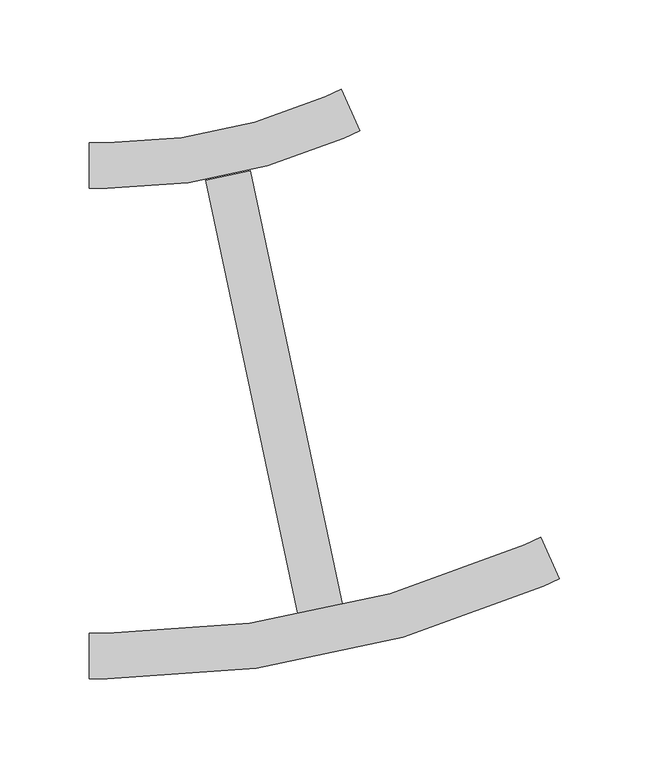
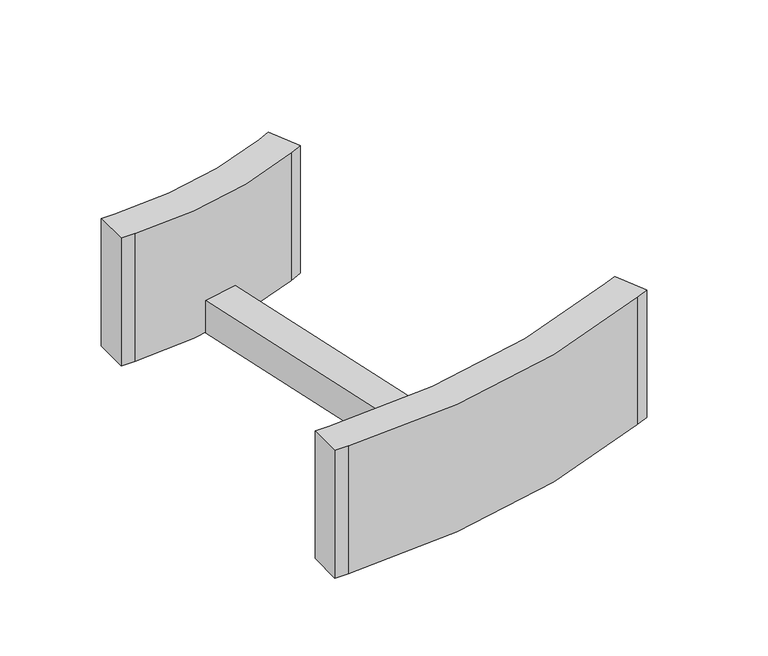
"""IFC4 building model written with IfcOpenShell, lengths in millimetres: cable carrier fitting geometry, ADSK_Поворот горизонтальный_Лестничный лоток : Радиус 300 мм."""

from ifc_helpers import new_model, si_unit, point, frame, frame_2d, origin, place, context, project, spatial, polyline, circle_curve, trimmed, segment, composite_curve, outline, extrude, source, transform, mapped, element, save


def cable_carrier_fitting_b7d36ccd(model_context):
    return source(origin(), model_context, "Body", "SweptSolid", [
        extrude(outline(polyline([(-40.4184631, 129.0702923), (-15.573514, 134.3512492), (36.2380793, -109.4031329), (11.3931303, -114.6840899), (-40.4184631, 129.0702923)])), frame((0.0, 0.0, -50.0), z_axis=(0.0, 0.0, 1.0), x_axis=(1.0, 0.0, 0.0)), (0.0, 0.0, 1.0), 25.4),
        extrude(outline(composite_curve([segment(polyline([(-105.6504528, -150.0), (-105.6504528, -124.6), (-95.6504528, -124.6)]), True, "CONTINUOUS"), segment(trimmed(circle_curve(frame_2d((-95.6504528, 450.0)), 574.6), [point((-95.6504528, -124.6))], [point((138.0604224, -74.92322))], True, "CARTESIAN"), True, "CONTINUOUS"), segment(polyline([(138.0604224, -74.92322), (147.1958769, -70.8558535), (157.5269877, -94.0599082), (148.3915331, -98.1272746)]), True, "CONTINUOUS"), segment(trimmed(circle_curve(frame_2d((-95.6504528, 450.0)), 600.0), [point((148.3915331, -98.1272746))], [point((-95.6504528, -150.0))], False, "CARTESIAN"), True, "CONTINUOUS"), segment(polyline([(-95.6504528, -150.0), (-105.6504528, -150.0)]), True, "CONTINUOUS")], self_intersect=False)), frame((0.0, 0.0, -50.0), z_axis=(0.0, 0.0, 1.0), x_axis=(1.0, 0.0, 0.0)), (0.0, 0.0, 1.0), 100.0),
        extrude(outline(composite_curve([segment(polyline([(-105.6504528, 124.6), (-105.6504528, 150.0), (-95.6504528, 150.0)]), True, "CONTINUOUS"), segment(trimmed(circle_curve(frame_2d((-95.6504528, 450.0)), 300.0), [point((-95.6504528, 150.0))], [point((26.3705402, 175.9363627))], True, "CARTESIAN"), True, "CONTINUOUS"), segment(polyline([(26.3705402, 175.9363627), (35.5059947, 180.0037291), (45.8371055, 156.7996745), (36.7016509, 152.7323081)]), True, "CONTINUOUS"), segment(trimmed(circle_curve(frame_2d((-95.6504528, 450.0)), 325.4), [point((36.7016509, 152.7323081))], [point((-95.6504528, 124.6))], False, "CARTESIAN"), True, "CONTINUOUS"), segment(polyline([(-95.6504528, 124.6), (-105.6504528, 124.6)]), True, "CONTINUOUS")], self_intersect=False)), frame((0.0, 0.0, -50.0), z_axis=(0.0, 0.0, 1.0), x_axis=(1.0, 0.0, 0.0)), (0.0, 0.0, 1.0), 100.0),
    ])


if __name__ == "__main__":
    model = new_model("IFC4")
    model_context = context("Model", 3, world=origin())
    ifc_project = project(units=[si_unit("LENGTHUNIT", "METRE", prefix="MILLI")], contexts=[model_context])
    site = spatial("IfcSite", under=ifc_project)
    building = spatial("IfcBuilding", under=site)
    placement = place(None, origin())
    cable_carrier_fitting_shape = cable_carrier_fitting_b7d36ccd(model_context)
    element("IfcCableCarrierFitting", 1, ObjectType="ADSK_Поворот горизонтальный_Лестничный лоток : Радиус 300 мм", at=placement, inside=building, context=model_context, shape_type="MappedRepresentation", body=[
        mapped(cable_carrier_fitting_shape, transform((0.0, 0.0, 0.0), x_axis=(1.0, 0.0, 0.0), y_axis=(0.0, 1.0, 0.0), z_axis=(0.0, 0.0, 1.0))),
    ])
    save(model, "model.ifc")
